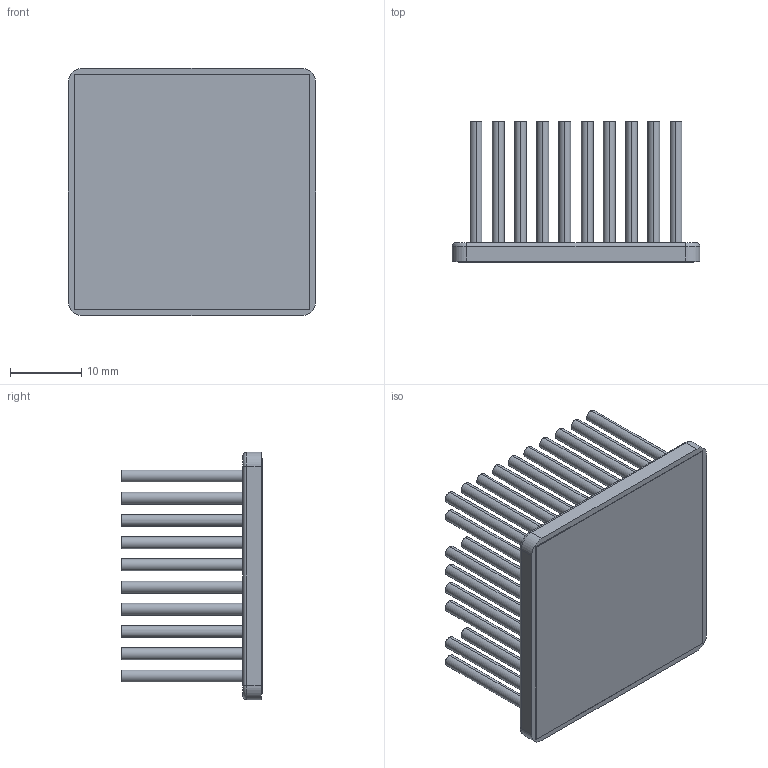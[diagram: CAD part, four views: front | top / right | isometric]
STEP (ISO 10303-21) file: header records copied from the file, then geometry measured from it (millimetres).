
FILE_DESCRIPTION (( 'STEP AP214' ), '1' );
FILE_NAME ('INM35002-20PCU-2.6.STEP', '2023-02-28T22:54:50', ( '' ), ( '' ), 'SwSTEP 2.0', 'SolidWorks 2020', '' );
FILE_SCHEMA (( 'AUTOMOTIVE_DESIGN' ));
Length unit declared in the file: inch
Products named in the file (1): INM35002-20PCU-2.6
Bounding box: 34.7 x 19.73 x 34.7 mm (x, y, z)
Volume: 6678.3 mm3; surface area: 13123.9 mm2
Topology: 2 solids, 2 shells, 300 faces, 604 edges, 400 vertices
Faces by surface type: cylinder 192, plane 104, torus 4
Entity records: 11963 total; most frequent: DIRECTION 1594, CARTESIAN_POINT 1305, ORIENTED_EDGE 1208, AXIS2_PLACEMENT_3D 689, EDGE_CURVE 604, VERTEX_POINT 400, EDGE_LOOP 392, CIRCLE 388
